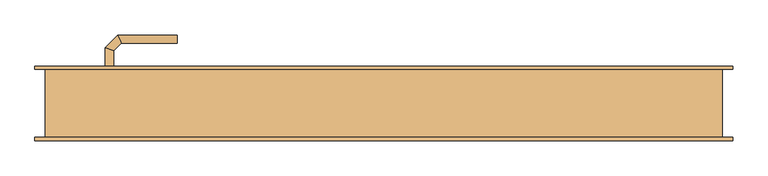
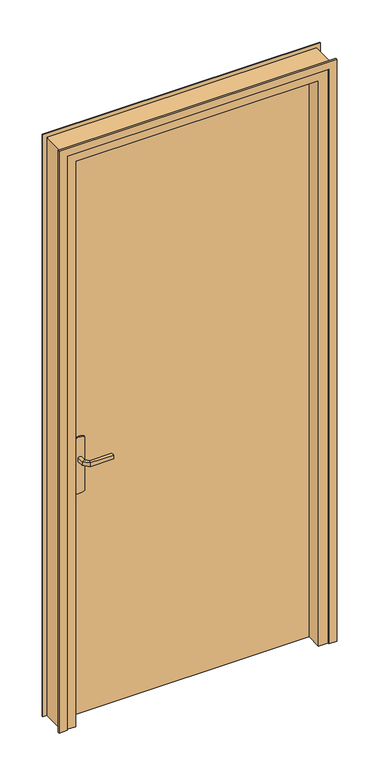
"""IFC4 building model written with IfcOpenShell, lengths in millimetres: door geometry, @_Int. Simple : @_PP (0.93m x 2.25)."""

from ifc_helpers import new_model, si_unit, point, frame, frame_2d, origin, origin_with_axes, place, context, project, spatial, polyline, circle_curve, ellipse_curve, trimmed, segment, composite_curve, outline, extrude, faceted_brep, source, transform, mapped, element, save
from ifc_brep_helpers import plane_surface, cylinder_surface, advanced_brep


def door_7789ac37(model_context):
    return source(origin(), model_context, "Body", "SolidModel", [
        extrude(outline(composite_curve([segment(trimmed(circle_curve(frame_2d((904.6410162, -440.0)), 40.0), [point((870.0, -460.0))], [point((870.0, -420.0))], False, "CARTESIAN"), True, "CONTINUOUS"), segment(polyline([(870.0, -420.0), (1080.0, -420.0)]), True, "CONTINUOUS"), segment(trimmed(circle_curve(frame_2d((1045.3589838, -440.0)), 40.0), [point((1080.0, -420.0))], [point((1080.0, -460.0))], False, "CARTESIAN"), True, "CONTINUOUS"), segment(polyline([(1080.0, -460.0), (870.0, -460.0)]), True, "CONTINUOUS")], self_intersect=False)), frame((0.0, 50.0, 0.0), z_axis=(0.0, 1.0, 0.0), x_axis=(0.0, 0.0, 1.0)), (0.0, 0.0, 1.0), 5.0),
        extrude(outline(composite_curve([segment(trimmed(circle_curve(frame_2d((1045.3589838, -440.0)), 40.0), [point((1080.0, -420.0))], [point((1080.0, -460.0))], False, "CARTESIAN"), True, "CONTINUOUS"), segment(polyline([(1080.0, -460.0), (870.0, -460.0)]), True, "CONTINUOUS"), segment(trimmed(circle_curve(frame_2d((904.6410162, -440.0)), 40.0), [point((870.0, -460.0))], [point((870.0, -420.0))], False, "CARTESIAN"), True, "CONTINUOUS"), segment(polyline([(870.0, -420.0), (1080.0, -420.0)]), True, "CONTINUOUS")], self_intersect=False)), frame((0.0, 5.0, 0.0), z_axis=(0.0, 1.0, 0.0), x_axis=(0.0, 0.0, 1.0)), (0.0, 0.0, 1.0), 5.0),
        advanced_brep(
        [(-446.0, 55.0, 1007.0), (-446.0, 55.0, 993.0), (-434.0, 55.0, 993.0), (-434.0, 55.0, 1007.0), (-434.0, 77.680388, 1007.0), (-446.0, 82.6509507, 1007.0), (-434.0, 77.680388, 993.0), (-446.0, 82.6509507, 993.0), (-422.6522273, 89.0281607, 1007.0), (-427.62279, 101.0281607, 1007.0), (-422.6522273, 89.0281607, 993.0), (-427.62279, 101.0281607, 993.0), (-339.9813594, 101.0281607, 1007.0), (-339.9813594, 89.0281607, 1007.0), (-339.9813594, 89.0281607, 993.0), (-339.9813594, 101.0281607, 993.0)],
        [
            (0, 1),
            (1, 2, circle_curve(frame((-440.0, 55.0, 1013.0457722), z_axis=(0.0, -1.0, 0.0), x_axis=(1.0, 0.0, 0.0)), 20.9244589)),
            (2, 3),
            (3, 0, circle_curve(frame((-440.0, 55.0, 986.9542278), z_axis=(0.0, -1.0, 0.0), x_axis=(1.0, 0.0, 0.0)), 20.9244589)),
            (3, 4),
            (4, 5, ellipse_curve(frame((-440.0, 80.1656693, 986.9542278), z_axis=(-0.3826834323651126, -0.9238795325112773, 0.0), x_axis=(0.9238795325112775, -0.38268343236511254, 0.0)), 22.6484711, 20.9244589)),
            (5, 0),
            (2, 6),
            (6, 4),
            (1, 7),
            (7, 6, ellipse_curve(frame((-440.0, 80.1656693, 1013.0457722), z_axis=(-0.3826834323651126, -0.9238795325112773, 0.0), x_axis=(0.9238795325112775, -0.38268343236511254, 0.0)), 22.6484711, 20.9244589)),
            (5, 7),
            (4, 8),
            (8, 9, ellipse_curve(frame((-425.1375086, 95.0281607, 986.9542278), z_axis=(-0.9238795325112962, -0.38268343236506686, 0.0), x_axis=(0.3826834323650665, -0.9238795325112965, 0.0)), 22.6484711, 20.9244589)),
            (9, 5),
            (6, 10),
            (10, 8),
            (7, 11),
            (11, 10, ellipse_curve(frame((-425.1375086, 95.0281607, 1013.0457722), z_axis=(-0.9238795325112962, -0.38268343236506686, 0.0), x_axis=(0.3826834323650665, -0.9238795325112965, 0.0)), 22.6484711, 20.9244589)),
            (9, 11),
            (12, 13, circle_curve(frame((-339.9813594, 95.0281607, 986.9542278), z_axis=(1.0, 0.0, 0.0), x_axis=(0.0, -1.0, 0.0)), 20.9244589)),
            (13, 14),
            (14, 15, circle_curve(frame((-339.9813594, 95.0281607, 1013.0457722), z_axis=(1.0, 0.0, 0.0), x_axis=(0.0, -1.0, 0.0)), 20.9244589)),
            (15, 12),
            (8, 13),
            (12, 9),
            (10, 14),
            (11, 15),
        ],
        [
            plane_surface(frame((-449.2195445, 55.0, 1000.0), z_axis=(0.0, -1.0, 0.0), x_axis=(0.0, 0.0, -1.0))),
            cylinder_surface(frame((-440.0, 55.0, 986.9542278), z_axis=(0.0, -1.0, 0.0), x_axis=(1.0, 0.0, 0.0)), 20.9244589),
            plane_surface(frame((-434.0, 55.0, 1007.0), z_axis=(1.0, 0.0, 0.0), x_axis=(0.0, 1.0, 0.0))),
            cylinder_surface(frame((-440.0, 55.0, 1013.0457722), z_axis=(0.0, -1.0, 0.0), x_axis=(1.0, 0.0, 0.0)), 20.9244589),
            plane_surface(frame((-446.0, 55.0, 993.0), z_axis=(-1.0, 0.0, 0.0), x_axis=(0.0, 1.0, 0.0))),
            cylinder_surface(frame((-440.0, 80.1656693, 986.9542278), z_axis=(-0.7071067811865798, -0.7071067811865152, 0.0), x_axis=(0.7071067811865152, -0.7071067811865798, 0.0)), 20.9244589),
            plane_surface(frame((-434.0, 77.680388, 1007.0), z_axis=(0.7071067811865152, -0.7071067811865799, 0.0), x_axis=(0.7071067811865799, 0.7071067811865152, 0.0))),
            cylinder_surface(frame((-440.0, 80.1656693, 1013.0457722), z_axis=(-0.7071067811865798, -0.7071067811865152, 0.0), x_axis=(0.7071067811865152, -0.7071067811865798, 0.0)), 20.9244589),
            plane_surface(frame((-446.0, 82.6509507, 993.0), z_axis=(-0.7071067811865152, 0.7071067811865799, 0.0), x_axis=(0.7071067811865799, 0.7071067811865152, 0.0))),
            plane_surface(frame((-339.9813594, 95.0281607, 990.7804555), z_axis=(1.0, 0.0, 0.0), x_axis=(0.0, -1.0, 0.0))),
            cylinder_surface(frame((-425.1375086, 95.0281607, 986.9542278), z_axis=(-1.0, 0.0, 0.0), x_axis=(0.0, -1.0, 0.0)), 20.9244589),
            plane_surface(frame((-422.6522273, 89.0281607, 1007.0), z_axis=(0.0, -1.0, 0.0), x_axis=(1.0, 0.0, 0.0))),
            cylinder_surface(frame((-425.1375086, 95.0281607, 1013.0457722), z_axis=(-1.0, 0.0, 0.0), x_axis=(0.0, -1.0, 0.0)), 20.9244589),
            plane_surface(frame((-427.62279, 101.0281607, 993.0), z_axis=(0.0, 1.0, 0.0), x_axis=(1.0, 0.0, 0.0))),
        ],
        [
            (0, [[1, 2, 3, 4]]),
            (1, [[5, 6, 7, -4]]),
            (2, [[8, 9, -5, -3]]),
            (3, [[10, 11, -8, -2]]),
            (4, [[-7, 12, -10, -1]]),
            (5, [[13, 14, 15, -6]]),
            (6, [[16, 17, -13, -9]]),
            (7, [[18, 19, -16, -11]]),
            (8, [[-15, 20, -18, -12]]),
            (9, [[21, 22, 23, 24]]),
            (10, [[25, -21, 26, -14]]),
            (11, [[27, -22, -25, -17]]),
            (12, [[28, -23, -27, -19]]),
            (13, [[-26, -24, -28, -20]]),
        ],
    ),
        advanced_brep(
        [(-434.0, 5.0, 993.0), (-446.0, 5.0, 993.0), (-446.0, 5.0, 1007.0), (-434.0, 5.0, 1007.0), (-434.0, -17.4852045, 1007.0), (-434.0, -17.4852045, 993.0), (-446.0, -22.4557673, 1007.0), (-446.0, -22.4557673, 993.0), (-422.5147186, -28.9704859, 1007.0), (-422.5147186, -28.9704859, 993.0), (-427.4852814, -40.9704859, 1007.0), (-427.4852814, -40.9704859, 993.0), (-339.9542163, -28.9704859, 993.0), (-339.9542163, -28.9704859, 1007.0), (-339.9542163, -40.9704859, 1007.0), (-339.9542163, -40.9704859, 993.0)],
        [
            (0, 1, circle_curve(frame((-440.0, 5.0, 1013.0457722), z_axis=(0.0, 1.0, 0.0), x_axis=(-1.0, 0.0, 0.0)), 20.9244589)),
            (1, 2),
            (2, 3, circle_curve(frame((-440.0, 5.0, 986.9542278), z_axis=(0.0, 1.0, 0.0), x_axis=(-1.0, 0.0, 0.0)), 20.9244589)),
            (3, 0),
            (3, 4),
            (4, 5),
            (5, 0),
            (2, 6),
            (6, 4, ellipse_curve(frame((-440.0, -19.9704859, 986.9542278), z_axis=(-0.3826834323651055, 0.9238795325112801, 0.0), x_axis=(0.9238795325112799, 0.3826834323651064, 0.0)), 22.6484711, 20.9244589)),
            (1, 7),
            (7, 6),
            (5, 7, ellipse_curve(frame((-440.0, -19.9704859, 1013.0457722), z_axis=(-0.3826834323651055, 0.9238795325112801, 0.0), x_axis=(0.9238795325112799, 0.3826834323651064, 0.0)), 22.6484711, 20.9244589)),
            (4, 8),
            (8, 9),
            (9, 5),
            (6, 10),
            (10, 8, ellipse_curve(frame((-425.0, -34.9704859, 986.9542278), z_axis=(-0.9238795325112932, 0.382683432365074, 0.0), x_axis=(0.3826834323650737, 0.9238795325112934, 0.0)), 22.6484711, 20.9244589)),
            (7, 11),
            (11, 10),
            (9, 11, ellipse_curve(frame((-425.0, -34.9704859, 1013.0457722), z_axis=(-0.9238795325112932, 0.382683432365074, 0.0), x_axis=(0.3826834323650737, 0.9238795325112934, 0.0)), 22.6484711, 20.9244589)),
            (12, 13),
            (13, 14, circle_curve(frame((-339.9542163, -34.9704859, 986.9542278), z_axis=(1.0, 0.0, 0.0), x_axis=(0.0, -1.0, 0.0)), 20.9244589)),
            (14, 15),
            (15, 12, circle_curve(frame((-339.9542163, -34.9704859, 1013.0457722), z_axis=(1.0, 0.0, 0.0), x_axis=(0.0, -1.0, 0.0)), 20.9244589)),
            (8, 13),
            (12, 9),
            (10, 14),
            (11, 15),
        ],
        [
            plane_surface(frame((-449.2195445, 5.0, 1000.0), z_axis=(0.0, 1.0, 0.0), x_axis=(0.0, 0.0, 1.0))),
            plane_surface(frame((-434.0, 5.0, 993.0), z_axis=(1.0, 0.0, 0.0), x_axis=(0.0, -1.0, 0.0))),
            cylinder_surface(frame((-440.0, 5.0, 986.9542278), z_axis=(0.0, 1.0, 0.0), x_axis=(-1.0, 0.0, 0.0)), 20.9244589),
            plane_surface(frame((-446.0, 5.0, 1007.0), z_axis=(-1.0, 0.0, 0.0), x_axis=(0.0, -1.0, 0.0))),
            cylinder_surface(frame((-440.0, 5.0, 1013.0457722), z_axis=(0.0, 1.0, 0.0), x_axis=(-1.0, 0.0, 0.0)), 20.9244589),
            plane_surface(frame((-434.0, -17.4852045, 993.0), z_axis=(0.7071067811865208, 0.7071067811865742, 0.0), x_axis=(0.7071067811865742, -0.7071067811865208, 0.0))),
            cylinder_surface(frame((-440.0, -19.9704859, 986.9542278), z_axis=(-0.7071067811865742, 0.7071067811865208, 0.0), x_axis=(-0.7071067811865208, -0.7071067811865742, 0.0)), 20.9244589),
            plane_surface(frame((-446.0, -22.4557673, 1007.0), z_axis=(-0.7071067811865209, -0.7071067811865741, 0.0), x_axis=(0.7071067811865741, -0.7071067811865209, 0.0))),
            cylinder_surface(frame((-440.0, -19.9704859, 1013.0457722), z_axis=(-0.7071067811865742, 0.7071067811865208, 0.0), x_axis=(-0.7071067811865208, -0.7071067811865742, 0.0)), 20.9244589),
            plane_surface(frame((-339.9542163, -34.9704859, 990.7804555), z_axis=(1.0, 0.0, 0.0), x_axis=(0.0, -1.0, 0.0))),
            plane_surface(frame((-422.5147186, -28.9704859, 993.0), z_axis=(0.0, 1.0, 0.0), x_axis=(1.0, 0.0, 0.0))),
            cylinder_surface(frame((-425.0, -34.9704859, 986.9542278), z_axis=(-1.0, 0.0, 0.0), x_axis=(0.0, -1.0, 0.0)), 20.9244589),
            plane_surface(frame((-427.4852814, -40.9704859, 1007.0), z_axis=(0.0, -1.0, 0.0), x_axis=(1.0, 0.0, 0.0))),
            cylinder_surface(frame((-425.0, -34.9704859, 1013.0457722), z_axis=(-1.0, 0.0, 0.0), x_axis=(0.0, -1.0, 0.0)), 20.9244589),
        ],
        [
            (0, [[1, 2, 3, 4]]),
            (1, [[5, 6, 7, -4]]),
            (2, [[8, 9, -5, -3]]),
            (3, [[10, 11, -8, -2]]),
            (4, [[-7, 12, -10, -1]]),
            (5, [[13, 14, 15, -6]]),
            (6, [[16, 17, -13, -9]]),
            (7, [[18, 19, -16, -11]]),
            (8, [[-15, 20, -18, -12]]),
            (9, [[21, 22, 23, 24]]),
            (10, [[25, -21, 26, -14]]),
            (11, [[27, -22, -25, -17]]),
            (12, [[28, -23, -27, -19]]),
            (13, [[-26, -24, -28, -20]]),
        ],
    ),
        extrude(outline(polyline([(-500.0, 10.0), (-500.0, 50.0), (430.0, 50.0), (430.0, 10.0), (-500.0, 10.0)])), origin_with_axes(), (0.0, 0.0, 1.0), 2230.0),
        faceted_brep([(-535.0, 50.0, 0.0), (-500.0, 50.0, 0.0), (-500.0, 10.0, 0.0), (-485.0, 10.0, 0.0), (-485.0, -50.0, 0.0), (-535.0, -50.0, 0.0), (-535.0, -50.0, 2265.0), (-535.0, 50.0, 2265.0), (-485.0, -50.0, 2215.0), (415.0, -50.0, 2215.0), (415.0, -50.0, 0.0), (465.0, -50.0, 0.0), (465.0, -50.0, 2265.0), (-485.0, 10.0, 2215.0), (-500.0, 10.0, 2230.0), (430.0, 10.0, 2230.0), (430.0, 10.0, 0.0), (415.0, 10.0, 0.0), (415.0, 10.0, 2215.0), (-500.0, 50.0, 2230.0), (465.0, 50.0, 2265.0), (465.0, 50.0, 0.0), (430.0, 50.0, 0.0), (430.0, 50.0, 2230.0)], [[[0, 1, 2, 3, 4, 5]], [[5, 6, 7, 0]], [[4, 8, 9, 10, 11, 12, 6, 5]], [[3, 13, 8, 4]], [[2, 14, 15, 16, 17, 18, 13, 3]], [[1, 19, 14, 2]], [[0, 7, 20, 21, 22, 23, 19, 1]], [[12, 11, 21, 20]], [[21, 11, 10, 17, 16, 22]], [[18, 17, 10, 9]], [[23, 22, 16, 15]], [[6, 12, 20, 7]], [[13, 18, 9, 8]], [[19, 23, 15, 14]]]),
        extrude(outline(polyline([(0.0, -520.0), (2250.0, -520.0), (2250.0, 450.0), (0.0, 450.0), (0.0, 480.0), (2280.0, 480.0), (2280.0, -550.0), (0.0, -550.0), (0.0, -520.0)])), frame((0.0, 50.0, 0.0), z_axis=(0.0, 1.0, 0.0), x_axis=(0.0, 0.0, 1.0)), (0.0, 0.0, 1.0), 5.0),
        extrude(outline(polyline([(0.0, -520.0), (2250.0, -520.0), (2250.0, 450.0), (0.0, 450.0), (0.0, 480.0), (2280.0, 480.0), (2280.0, -550.0), (0.0, -550.0), (0.0, -520.0)])), frame((0.0, -55.0, 0.0), z_axis=(0.0, 1.0, 0.0), x_axis=(0.0, 0.0, 1.0)), (0.0, 0.0, 1.0), 5.0),
    ])


if __name__ == "__main__":
    model = new_model("IFC4")
    model_context = context("Model", 3, world=origin())
    ifc_project = project(units=[si_unit("LENGTHUNIT", "METRE", prefix="MILLI")], contexts=[model_context])
    site = spatial("IfcSite", under=ifc_project)
    building = spatial("IfcBuilding", under=site)
    placement = place(None, origin())
    door_shape = door_7789ac37(model_context)
    element("IfcDoor", 1, ObjectType="@_Int. Simple : @_PP (0.93m x 2.25)", at=placement, inside=building, context=model_context, shape_type="MappedRepresentation", body=[
        mapped(door_shape, transform((0.0, 0.0, 0.0), x_axis=(1.0, 0.0, 0.0), y_axis=(0.0, 1.0, 0.0), z_axis=(0.0, 0.0, 1.0))),
    ])
    save(model, "model.ifc")
